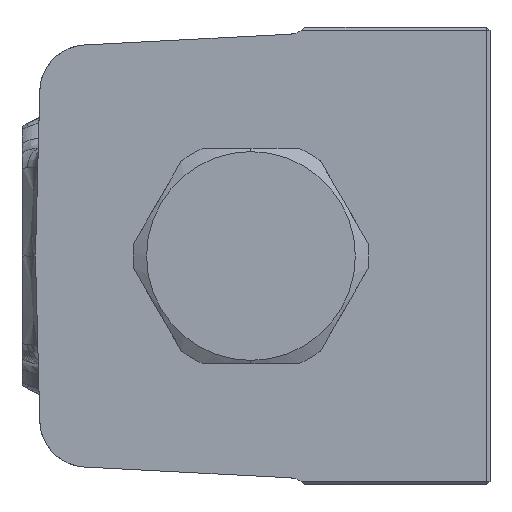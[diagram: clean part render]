
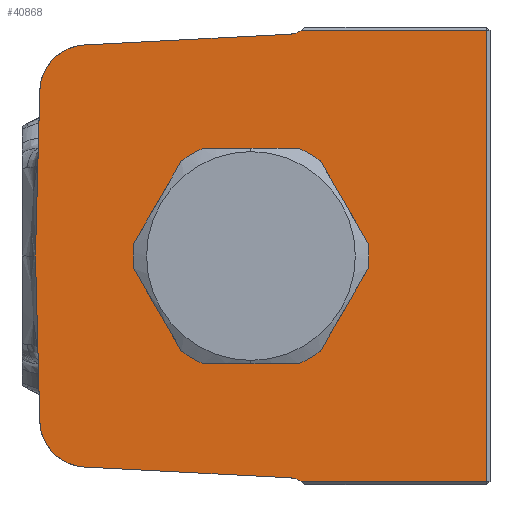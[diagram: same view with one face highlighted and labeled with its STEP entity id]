
A CAD part, left-side view. The second image highlights one B-rep face of the part: STEP entity #40868.
In plain terms, the highlighted planar face has unit normal (-1, 0, 0).
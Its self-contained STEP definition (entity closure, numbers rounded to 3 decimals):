
#123 = CARTESIAN_POINT ( 'NONE',  ( -46.6, 31.978, 0.837 ) ) ;
#172 = DIRECTION ( 'NONE',  ( 0., -0.026, 1. ) ) ;
#771 = CIRCLE ( 'NONE', #16158, 3. ) ;
#1399 = CARTESIAN_POINT ( 'NONE',  ( -46.6, -7.444, -33.5 ) ) ;
#1532 = CARTESIAN_POINT ( 'NONE',  ( -46.6, -7.444, 33.5 ) ) ;
#1648 = VECTOR ( 'NONE', #12999, 1000. ) ;
#2154 = FACE_OUTER_BOUND ( 'NONE', #38861, .T. ) ;
#2820 = EDGE_CURVE ( 'NONE', #27817, #33142, #32081, .T. ) ;
#3059 = ORIENTED_EDGE ( 'NONE', *, *, #4164, .T. ) ;
#3390 = EDGE_CURVE ( 'NONE', #3841, #14052, #29563, .T. ) ;
#3753 = CARTESIAN_POINT ( 'NONE',  ( -46.6, -5.85, -32.94 ) ) ;
#3841 = VERTEX_POINT ( 'NONE', #28614 ) ;
#3985 = CARTESIAN_POINT ( 'NONE',  ( -46.6, -35., 33.5 ) ) ;
#4164 = EDGE_CURVE ( 'NONE', #26386, #37670, #771, .T. ) ;
#4678 = AXIS2_PLACEMENT_3D ( 'NONE', #37588, #37443, #37397 ) ;
#4998 = EDGE_LOOP ( 'NONE', ( #16626, #26188 ) ) ;
#5012 = CARTESIAN_POINT ( 'NONE',  ( -46.6, 24.726, 31.337 ) ) ;
#5646 = LINE ( 'NONE', #8127, #38670 ) ;
#5741 = VERTEX_POINT ( 'NONE', #37998 ) ;
#5794 = EDGE_CURVE ( 'NONE', #5741, #28704, #23744, .T. ) ;
#6183 = VECTOR ( 'NONE', #172, 1000. ) ;
#6975 = DIRECTION ( 'NONE',  ( 0., -0.999, 0.052 ) ) ;
#7018 = CARTESIAN_POINT ( 'NONE',  ( -46.6, 31.358, -24.53 ) ) ;
#7193 = LINE ( 'NONE', #123, #6183 ) ;
#7490 = VECTOR ( 'NONE', #25530, 1000. ) ;
#8127 = CARTESIAN_POINT ( 'NONE',  ( -46.6, 1.706, 32.544 ) ) ;
#8710 = VERTEX_POINT ( 'NONE', #13914 ) ;
#8769 = AXIS2_PLACEMENT_3D ( 'NONE', #32222, #32094, #31954 ) ;
#9773 = FACE_BOUND ( 'NONE', #4998, .T. ) ;
#10372 = DIRECTION ( 'NONE',  ( 0., -1., 0. ) ) ;
#11292 = LINE ( 'NONE', #13178, #1648 ) ;
#11559 = CARTESIAN_POINT ( 'NONE',  ( -46.6, -35.5, -33.5 ) ) ;
#11715 = ORIENTED_EDGE ( 'NONE', *, *, #37177, .T. ) ;
#11852 = DIRECTION ( 'NONE',  ( 0., 0., 1. ) ) ;
#11938 = DIRECTION ( 'NONE',  ( -1., 0., 0. ) ) ;
#12999 = DIRECTION ( 'NONE',  ( 0., -0.026, -1. ) ) ;
#13178 = CARTESIAN_POINT ( 'NONE',  ( -46.6, 31.978, -0.837 ) ) ;
#13232 = VERTEX_POINT ( 'NONE', #15664 ) ;
#13523 = CARTESIAN_POINT ( 'NONE',  ( -46.6, 24.36, 24.347 ) ) ;
#13627 = EDGE_CURVE ( 'NONE', #39804, #27817, #20789, .T. ) ;
#13665 = ORIENTED_EDGE ( 'NONE', *, *, #37985, .F. ) ;
#13914 = CARTESIAN_POINT ( 'NONE',  ( -46.6, -35., -33.5 ) ) ;
#14052 = VERTEX_POINT ( 'NONE', #21232 ) ;
#14445 = EDGE_CURVE ( 'NONE', #13232, #28704, #11292, .T. ) ;
#14673 = VERTEX_POINT ( 'NONE', #5012 ) ;
#15050 = AXIS2_PLACEMENT_3D ( 'NONE', #33529, #33523, #33478 ) ;
#15220 = EDGE_CURVE ( 'NONE', #14052, #3841, #19028, .T. ) ;
#15664 = CARTESIAN_POINT ( 'NONE',  ( -46.6, 32., 0. ) ) ;
#16012 = LINE ( 'NONE', #25571, #7490 ) ;
#16158 = AXIS2_PLACEMENT_3D ( 'NONE', #20169, #20134, #20122 ) ;
#16626 = ORIENTED_EDGE ( 'NONE', *, *, #15220, .F. ) ;
#18217 = LINE ( 'NONE', #29386, #26728 ) ;
#18700 = EDGE_CURVE ( 'NONE', #13232, #29214, #7193, .T. ) ;
#19028 = CIRCLE ( 'NONE', #41255, 16. ) ;
#19999 = EDGE_CURVE ( 'NONE', #8710, #39804, #16012, .T. ) ;
#20122 = DIRECTION ( 'NONE',  ( 0., 0., 1. ) ) ;
#20134 = DIRECTION ( 'NONE',  ( 1., 0., 0. ) ) ;
#20169 = CARTESIAN_POINT ( 'NONE',  ( -46.6, -5.693, -35.936 ) ) ;
#20789 = LINE ( 'NONE', #36233, #37847 ) ;
#21111 = ORIENTED_EDGE ( 'NONE', *, *, #19999, .T. ) ;
#21212 = LINE ( 'NONE', #11559, #28753 ) ;
#21232 = CARTESIAN_POINT ( 'NONE',  ( -46.6, -16., 0. ) ) ;
#23128 = ORIENTED_EDGE ( 'NONE', *, *, #29416, .T. ) ;
#23559 = CARTESIAN_POINT ( 'NONE',  ( -46.6, 31.358, 24.53 ) ) ;
#23744 = CIRCLE ( 'NONE', #27577, 7. ) ;
#25530 = DIRECTION ( 'NONE',  ( 0., 0., 1. ) ) ;
#25571 = CARTESIAN_POINT ( 'NONE',  ( -46.6, -35., -34. ) ) ;
#26188 = ORIENTED_EDGE ( 'NONE', *, *, #3390, .F. ) ;
#26386 = VERTEX_POINT ( 'NONE', #3753 ) ;
#26626 = ORIENTED_EDGE ( 'NONE', *, *, #14445, .T. ) ;
#26728 = VECTOR ( 'NONE', #29938, 1000. ) ;
#26941 = CARTESIAN_POINT ( 'NONE',  ( -46.6, -5.85, 32.94 ) ) ;
#27132 = ORIENTED_EDGE ( 'NONE', *, *, #13627, .T. ) ;
#27577 = AXIS2_PLACEMENT_3D ( 'NONE', #37218, #37161, #37158 ) ;
#27817 = VERTEX_POINT ( 'NONE', #1532 ) ;
#28614 = CARTESIAN_POINT ( 'NONE',  ( -46.6, 16., 0. ) ) ;
#28704 = VERTEX_POINT ( 'NONE', #7018 ) ;
#28753 = VECTOR ( 'NONE', #10372, 1000. ) ;
#29214 = VERTEX_POINT ( 'NONE', #23559 ) ;
#29386 = CARTESIAN_POINT ( 'NONE',  ( -46.6, 1.706, -32.544 ) ) ;
#29416 = EDGE_CURVE ( 'NONE', #14673, #29214, #37778, .T. ) ;
#29563 = CIRCLE ( 'NONE', #4678, 16. ) ;
#29938 = DIRECTION ( 'NONE',  ( 0., -0.999, -0.052 ) ) ;
#30233 = EDGE_CURVE ( 'NONE', #5741, #26386, #18217, .T. ) ;
#31640 = ORIENTED_EDGE ( 'NONE', *, *, #18700, .F. ) ;
#31954 = DIRECTION ( 'NONE',  ( 0., 0., 1. ) ) ;
#32081 = CIRCLE ( 'NONE', #8769, 3. ) ;
#32094 = DIRECTION ( 'NONE',  ( 1., 0., 0. ) ) ;
#32222 = CARTESIAN_POINT ( 'NONE',  ( -46.6, -5.693, 35.936 ) ) ;
#32620 = ORIENTED_EDGE ( 'NONE', *, *, #5794, .F. ) ;
#33142 = VERTEX_POINT ( 'NONE', #26941 ) ;
#33478 = DIRECTION ( 'NONE',  ( 0., 0., 1. ) ) ;
#33523 = DIRECTION ( 'NONE',  ( -1., 0., 0. ) ) ;
#33529 = CARTESIAN_POINT ( 'NONE',  ( -46.6, -35.5, -34. ) ) ;
#33761 = PLANE ( 'NONE',  #15050 ) ;
#36233 = CARTESIAN_POINT ( 'NONE',  ( -46.6, -35.5, 33.5 ) ) ;
#36578 = DIRECTION ( 'NONE',  ( 0., 1., 0. ) ) ;
#37158 = DIRECTION ( 'NONE',  ( 0., 0., 1. ) ) ;
#37161 = DIRECTION ( 'NONE',  ( 1., 0., 0. ) ) ;
#37177 = EDGE_CURVE ( 'NONE', #37670, #8710, #21212, .T. ) ;
#37218 = CARTESIAN_POINT ( 'NONE',  ( -46.6, 24.36, -24.347 ) ) ;
#37397 = DIRECTION ( 'NONE',  ( 0., -1., 0. ) ) ;
#37443 = DIRECTION ( 'NONE',  ( -1., 0., 0. ) ) ;
#37588 = CARTESIAN_POINT ( 'NONE',  ( -46.6, 0., 0. ) ) ;
#37670 = VERTEX_POINT ( 'NONE', #1399 ) ;
#37778 = CIRCLE ( 'NONE', #40535, 7. ) ;
#37847 = VECTOR ( 'NONE', #36578, 1000. ) ;
#37973 = DIRECTION ( 'NONE',  ( 0., -1., 0. ) ) ;
#37980 = DIRECTION ( 'NONE',  ( -1., 0., 0. ) ) ;
#37985 = EDGE_CURVE ( 'NONE', #14673, #33142, #5646, .T. ) ;
#37998 = CARTESIAN_POINT ( 'NONE',  ( -46.6, 24.726, -31.337 ) ) ;
#38030 = CARTESIAN_POINT ( 'NONE',  ( -46.6, 0., 0. ) ) ;
#38168 = ORIENTED_EDGE ( 'NONE', *, *, #2820, .T. ) ;
#38670 = VECTOR ( 'NONE', #6975, 1000. ) ;
#38861 = EDGE_LOOP ( 'NONE', ( #3059, #11715, #21111, #27132, #38168, #13665, #23128, #31640, #26626, #32620, #41128 ) ) ;
#39804 = VERTEX_POINT ( 'NONE', #3985 ) ;
#40535 = AXIS2_PLACEMENT_3D ( 'NONE', #13523, #11938, #11852 ) ;
#40868 = ADVANCED_FACE ( 'NONE', ( #2154, #9773 ), #33761, .T. ) ;
#41128 = ORIENTED_EDGE ( 'NONE', *, *, #30233, .T. ) ;
#41255 = AXIS2_PLACEMENT_3D ( 'NONE', #38030, #37980, #37973 ) ;
